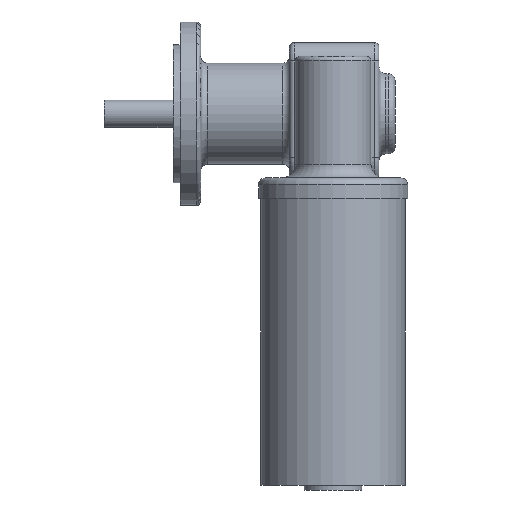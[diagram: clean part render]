
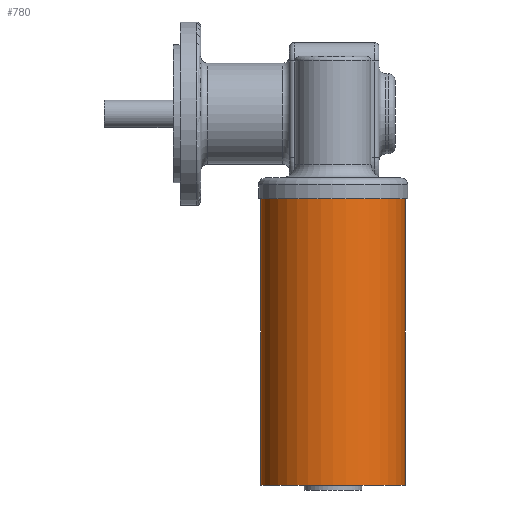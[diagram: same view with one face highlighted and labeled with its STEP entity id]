
A CAD part, front view. The second image highlights one B-rep face of the part: STEP entity #780.
In plain terms, the highlighted cylindrical face has radius 31.5 mm (diameter 63 mm), a partial arc.
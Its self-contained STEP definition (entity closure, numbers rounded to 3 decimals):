
#610 = EDGE_LOOP ( 'NONE', ( #1017, #1018, #1019, #1020 ) ) ;
#747 = EDGE_CURVE ( 'NONE', #925, #934, #3136, .T. ) ;
#749 = EDGE_CURVE ( 'NONE', #956, #938, #3141, .T. ) ;
#750 = EDGE_CURVE ( 'NONE', #925, #956, #3283, .T. ) ;
#752 = EDGE_CURVE ( 'NONE', #934, #938, #3290, .T. ) ;
#780 = ADVANCED_FACE ( 'NONE', ( #3505 ), #3508, .T. ) ;
#925 = VERTEX_POINT ( 'NONE', #4048 ) ;
#934 = VERTEX_POINT ( 'NONE', #4057 ) ;
#938 = VERTEX_POINT ( 'NONE', #4061 ) ;
#956 = VERTEX_POINT ( 'NONE', #4079 ) ;
#1017 = ORIENTED_EDGE ( 'NONE', *, *, #747, .F. ) ;
#1018 = ORIENTED_EDGE ( 'NONE', *, *, #750, .T. ) ;
#1019 = ORIENTED_EDGE ( 'NONE', *, *, #749, .T. ) ;
#1020 = ORIENTED_EDGE ( 'NONE', *, *, #752, .F. ) ;
#3128 = CARTESIAN_POINT ( 'NONE',  ( 30.117, -0.553, -125. ) ) ;
#3132 = CARTESIAN_POINT ( 'NONE',  ( -32.883, -0.553, -125. ) ) ;
#3136 = LINE ( 'NONE', #3132, #3282 ) ;
#3140 = DIRECTION ( 'NONE',  ( 0., 0., 1. ) ) ;
#3141 = LINE ( 'NONE', #3128, #3287 ) ;
#3145 = DIRECTION ( 'NONE',  ( 0., 0., 1. ) ) ;
#3146 = CARTESIAN_POINT ( 'NONE',  ( -1.383, -0.553, -125. ) ) ;
#3147 = DIRECTION ( 'NONE',  ( 0., 0., 1. ) ) ;
#3148 = DIRECTION ( 'NONE',  ( 1., 0., 0. ) ) ;
#3152 = CARTESIAN_POINT ( 'NONE',  ( -1.383, -0.553, 0. ) ) ;
#3153 = DIRECTION ( 'NONE',  ( 0., 0., 1. ) ) ;
#3154 = DIRECTION ( 'NONE',  ( 1., 0., 0. ) ) ;
#3282 = VECTOR ( 'NONE', #3140, 1000. ) ;
#3283 = CIRCLE ( 'NONE', #3289, 31.5 ) ;
#3287 = VECTOR ( 'NONE', #3145, 1000. ) ;
#3289 = AXIS2_PLACEMENT_3D ( 'NONE', #3146, #3147, #3148 ) ;
#3290 = CIRCLE ( 'NONE', #3293, 31.5 ) ;
#3293 = AXIS2_PLACEMENT_3D ( 'NONE', #3152, #3153, #3154 ) ;
#3495 = DIRECTION ( 'NONE',  ( 0., 0., 1. ) ) ;
#3505 = FACE_OUTER_BOUND ( 'NONE', #610, .T. ) ;
#3506 = CARTESIAN_POINT ( 'NONE',  ( -1.383, -0.553, -125. ) ) ;
#3508 = CYLINDRICAL_SURFACE ( 'NONE', #3885, 31.5 ) ;
#3509 = DIRECTION ( 'NONE',  ( 1., 0., 0. ) ) ;
#3885 = AXIS2_PLACEMENT_3D ( 'NONE', #3506, #3495, #3509 ) ;
#4048 = CARTESIAN_POINT ( 'NONE',  ( -32.883, -0.553, -125. ) ) ;
#4057 = CARTESIAN_POINT ( 'NONE',  ( -32.883, -0.553, 0. ) ) ;
#4061 = CARTESIAN_POINT ( 'NONE',  ( 30.117, -0.553, 0. ) ) ;
#4079 = CARTESIAN_POINT ( 'NONE',  ( 30.117, -0.553, -125. ) ) ;
